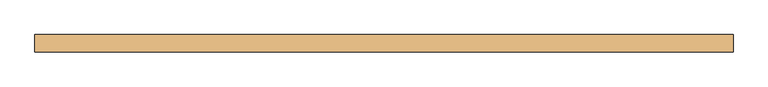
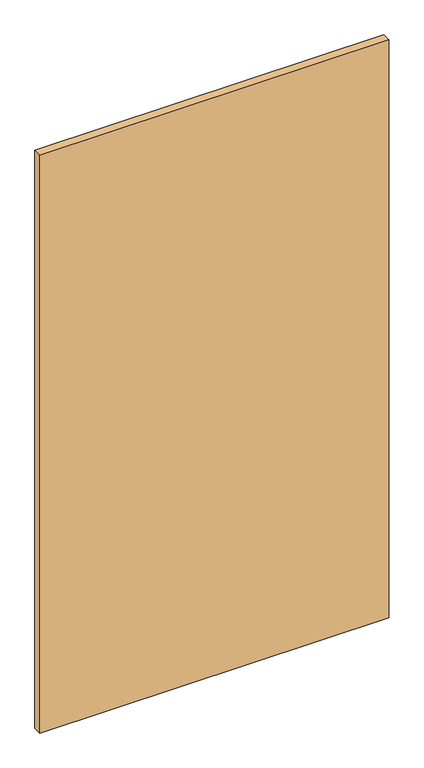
"""IFC4 building model written with IfcOpenShell, lengths in millimetres: door geometry, PUERTA INTERIOR CORREDIZA_ESTRIAS : PUERTA INTERIOR CORREDIZA_ESTRIAS."""

import ifcopenshell
import ifcopenshell.guid

model = None  # the IFC model being written
_history = None  # IfcOwnerHistory: only IFC2X3 demands one
_inside = {}  # id of a spatial element -> (the spatial element, [elements in it])
_under = {}  # id of a project, library or spatial element -> (it, [spatial elements below it])
_declared = {}  # id of a project -> (the project, [libraries it declares])
_typed = {}  # id of a type object -> (the type object, [elements of that type])
_made_of = {}  # id of a material, layer set ... -> (it, [elements and type objects made of it])


def new_model(schema):
    """Start an empty IFC model of exactly this schema.

    Asked for "IFC4X3", IfcOpenShell would pick the latest addendum, in which some entities
    have other attributes; the version numbers below select the first issue.
    IFC2X3 requires an IfcOwnerHistory on every rooted entity: one is made here for all.
    """
    global model, _history
    if schema == "IFC4X3":
        model = ifcopenshell.file(schema_version=(4, 3, 0, 0))
    else:
        model = ifcopenshell.file(schema=schema)
    _inside.clear()
    _under.clear()
    _declared.clear()
    _typed.clear()
    _made_of.clear()
    _history = None
    if model.schema == "IFC2X3":
        org = make("IfcOrganization", Name="unknown")
        user = make(
            "IfcPersonAndOrganization",
            ThePerson=make("IfcPerson", FamilyName="unknown"),
            TheOrganization=org,
        )
        app = make(
            "IfcApplication",
            ApplicationDeveloper=org,
            Version="unknown",
            ApplicationFullName="unknown",
            ApplicationIdentifier="unknown",
        )
        _history = make(
            "IfcOwnerHistory",
            OwningUser=user,
            OwningApplication=app,
            ChangeAction="ADDED",
            CreationDate=0,
        )
    return model


def make(cls, **values):
    """One entity of the class cls with the attributes given. An attribute that is None is left unset."""
    return model.create_entity(
        cls, **{name: value for name, value in values.items() if value is not None}
    )


def rooted(cls, **values):
    """An entity with a GlobalId (a new one), such as an element, a storey or a relation."""
    return make(cls, GlobalId=ifcopenshell.guid.new(), OwnerHistory=_history, **values)


def si_unit(unit_type, name, prefix=None):
    """IfcSIUnit, for example si_unit("LENGTHUNIT", "METRE", prefix="MILLI")."""
    return make("IfcSIUnit", UnitType=unit_type, Prefix=prefix, Name=name)


def assignment(units):
    """IfcUnitAssignment: the units of a project."""
    return None if units is None else make("IfcUnitAssignment", Units=units)


def point(xyz):
    """IfcCartesianPoint."""
    return None if xyz is None else make("IfcCartesianPoint", Coordinates=xyz)


def direction(xyz):
    """IfcDirection."""
    return None if xyz is None else make("IfcDirection", DirectionRatios=xyz)


def frame(location, z_axis=None, x_axis=None):
    """IfcAxis2Placement3D, a coordinate frame: its origin and axes. An axis left out is left unset."""
    return make(
        "IfcAxis2Placement3D",
        Location=point(location),
        Axis=direction(z_axis),
        RefDirection=direction(x_axis),
    )


def origin():
    """The frame at (0, 0, 0) with its axes left unset."""
    return frame((0.0, 0.0, 0.0))


def origin_with_axes():
    """The frame at (0, 0, 0) with the z axis (0, 0, 1) and the x axis (1, 0, 0) written out."""
    return frame((0.0, 0.0, 0.0), z_axis=(0.0, 0.0, 1.0), x_axis=(1.0, 0.0, 0.0))


def place(relative_to, where):
    """IfcLocalPlacement: puts the frame where relative to a parent placement (None: the world)."""
    return make(
        "IfcLocalPlacement", PlacementRelTo=relative_to, RelativePlacement=where
    )


def context(
    kind, dimensions, precision=None, world=None, true_north=None, identifier=None
):
    """IfcGeometricRepresentationContext, for example the 3D "Model" context."""
    return make(
        "IfcGeometricRepresentationContext",
        ContextIdentifier=identifier,
        ContextType=kind,
        CoordinateSpaceDimension=dimensions,
        Precision=precision,
        WorldCoordinateSystem=world,
        TrueNorth=true_north,
    )


def project(units=None, contexts=None):
    """IfcProject with its units and contexts."""
    return rooted(
        "IfcProject",
        Name="project",
        RepresentationContexts=contexts,
        UnitsInContext=assignment(units),
    )


def spatial(cls, under=None, at=None, **own):
    """A site, building, storey or space (cls), placed at a placement, below another one or the project."""
    s = rooted(cls, ObjectPlacement=at, **own)
    if under is not None:
        _under.setdefault(under.id(), (under, []))[1].append(s)
    return s


def polyline(points):
    """IfcPolyline through the points."""
    return make("IfcPolyline", Points=[point(p) for p in points])


def outline(outer, holes=None, kind="AREA"):
    """IfcArbitraryClosedProfileDef: a profile drawn as a closed curve; with holes, ...WithVoids."""
    if holes is None:
        return make("IfcArbitraryClosedProfileDef", ProfileType=kind, OuterCurve=outer)
    return make(
        "IfcArbitraryProfileDefWithVoids",
        ProfileType=kind,
        OuterCurve=outer,
        InnerCurves=holes,
    )


def extrude(swept, where, along, depth):
    """IfcExtrudedAreaSolid: the profile swept, set in the frame where, extruded along a direction by depth."""
    return make(
        "IfcExtrudedAreaSolid",
        SweptArea=swept,
        Position=where,
        ExtrudedDirection=direction(along),
        Depth=depth,
    )


def shape(context_of_items, identifier, shape_type, items):
    """IfcShapeRepresentation: the items that make up one representation, for example the "Body"."""
    return make(
        "IfcShapeRepresentation",
        ContextOfItems=context_of_items,
        RepresentationIdentifier=identifier,
        RepresentationType=shape_type,
        Items=items,
    )


def source(mapping_origin, context_of_items, identifier, shape_type, items):
    """IfcRepresentationMap: a shape defined once, which mapped items show again and again."""
    return make(
        "IfcRepresentationMap",
        MappingOrigin=mapping_origin,
        MappedRepresentation=shape(context_of_items, identifier, shape_type, items),
    )


def transform(
    local_origin,
    x_axis=None,
    y_axis=None,
    z_axis=None,
    scale=None,
    scale2=None,
    scale3=None,
    uniform=True,
):
    """IfcCartesianTransformationOperator3D, or its non-uniform kind. x_axis, y_axis, z_axis: its Axis1, 2, 3."""
    if uniform:
        return make(
            "IfcCartesianTransformationOperator3D",
            Axis1=direction(x_axis),
            Axis2=direction(y_axis),
            LocalOrigin=point(local_origin),
            Scale=scale,
            Axis3=direction(z_axis),
        )
    return make(
        "IfcCartesianTransformationOperator3DnonUniform",
        Axis1=direction(x_axis),
        Axis2=direction(y_axis),
        LocalOrigin=point(local_origin),
        Scale=scale,
        Axis3=direction(z_axis),
        Scale2=scale2,
        Scale3=scale3,
    )


def mapped(mapping_source, mapping_target):
    """IfcMappedItem: shows the shape of a source again, moved by a transform."""
    return make(
        "IfcMappedItem", MappingSource=mapping_source, MappingTarget=mapping_target
    )


def made_of(thing, what):
    """Note that an element or type object is made of a material, layer set ...; save() writes the relation."""
    if what is not None:
        _made_of.setdefault(what.id(), (what, []))[1].append(thing)
    return thing


def element(
    cls,
    number,
    at=None,
    inside=None,
    cuts=None,
    type_object=None,
    material=None,
    context=None,
    identifier="Body",
    shape_type=None,
    held_by="IfcProductDefinitionShape",
    body=None,
    shapes=None,
    **own,
):
    """One element of the class cls, such as IfcWall. Its Tag is "e" and its number.

    at: its placement. inside: the storey or other place that contains it. cuts: it is an
    opening in that element (IfcRelVoidsElement). A single representation is given by context,
    identifier, shape_type and body (its items); several are given by shapes. held_by: the class
    of the entity that holds the representations. save() writes the other relations.
    """
    e = rooted(cls, Tag="e%d" % number, ObjectPlacement=at, **own)
    if body is not None:
        shapes = [shape(context, identifier, shape_type, body)]
    if shapes is not None:
        e.Representation = make(held_by, Representations=shapes)
    if inside is not None:
        _inside.setdefault(inside.id(), (inside, []))[1].append(e)
    if cuts is not None:
        rooted(
            "IfcRelVoidsElement", RelatingBuildingElement=cuts, RelatedOpeningElement=e
        )
    if type_object is not None:
        _typed.setdefault(type_object.id(), (type_object, []))[1].append(e)
    return made_of(e, material)


def aggregate(whole, parts):
    """IfcRelAggregates: a whole, such as a stair, and the parts it consists of."""
    return rooted("IfcRelAggregates", RelatingObject=whole, RelatedObjects=parts)


def save(model, path):
    """Write the relations noted so far, then the file.

    IfcRelAggregates (storeys below a building ...), IfcRelContainedInSpatialStructure (elements
    in a storey), IfcRelDefinesByType, IfcRelAssociatesMaterial and IfcRelDeclares: one each for
    every whole, place, type object, material and project.
    """
    for whole, parts in _under.values():
        aggregate(whole, parts)
    for where, things in _inside.values():
        rooted(
            "IfcRelContainedInSpatialStructure",
            RelatedElements=things,
            RelatingStructure=where,
        )
    for kind, things in _typed.values():
        rooted("IfcRelDefinesByType", RelatedObjects=things, RelatingType=kind)
    for what, things in _made_of.values():
        rooted("IfcRelAssociatesMaterial", RelatedObjects=things, RelatingMaterial=what)
    for by, libraries in _declared.values():
        rooted("IfcRelDeclares", RelatingContext=by, RelatedDefinitions=libraries)
    model.write(path)


def door_714fe449(model_context):
    return source(origin(), model_context, "Body", "SweptSolid", [
        extrude(outline(polyline([(-600.0, -95.0), (600.0, -95.0), (600.0, -125.0), (-600.0, -125.0), (-600.0, -95.0)])), origin_with_axes(), (0.0, 0.0, 1.0), 2100.0),
    ])


if __name__ == "__main__":
    model = new_model("IFC4")
    model_context = context("Model", 3, world=origin())
    ifc_project = project(units=[si_unit("LENGTHUNIT", "METRE", prefix="MILLI")], contexts=[model_context])
    site = spatial("IfcSite", under=ifc_project)
    building = spatial("IfcBuilding", under=site)
    placement = place(None, origin())
    door_shape = door_714fe449(model_context)
    element("IfcDoor", 1, ObjectType="PUERTA INTERIOR CORREDIZA_ESTRIAS : PUERTA INTERIOR CORREDIZA_ESTRIAS", at=placement, inside=building, context=model_context, shape_type="MappedRepresentation", body=[
        mapped(door_shape, transform((0.0, 0.0, 0.0), x_axis=(1.0, 0.0, 0.0), y_axis=(0.0, 1.0, 0.0), z_axis=(0.0, 0.0, 1.0))),
    ])
    save(model, "model.ifc")
